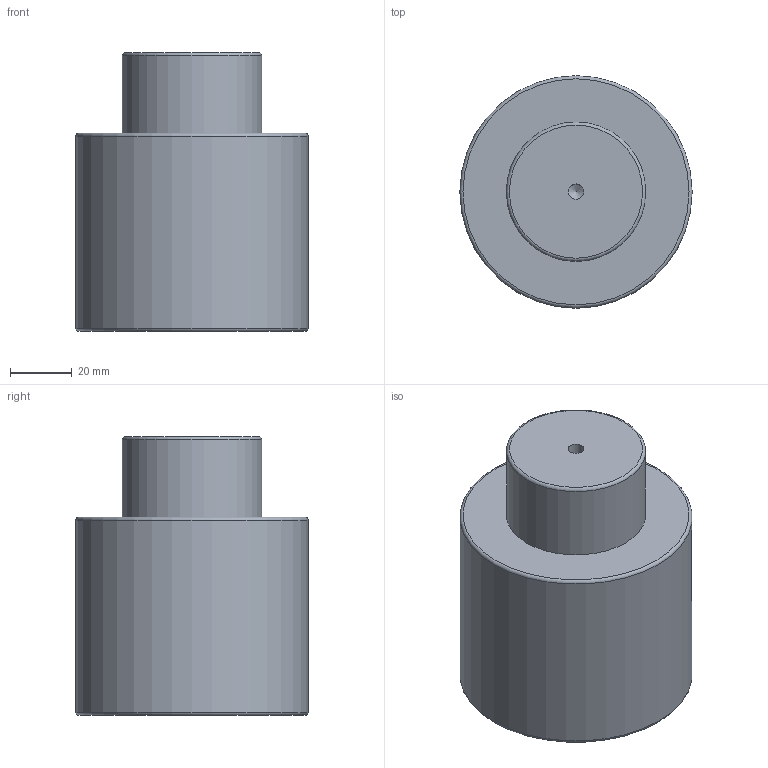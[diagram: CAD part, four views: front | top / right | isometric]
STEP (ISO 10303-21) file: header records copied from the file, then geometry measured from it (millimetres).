
FILE_DESCRIPTION(/* description */ (''),/* implementation_level */ '2;1');
FILE_NAME(/* name */ 'NV5-SMLX.75x25.stp',/* time_stamp */ '2018-08-31T16:08:29+02:00',/* author */ (''),/* organization */ (''),/* preprocessor_version */ 'ST-DEVELOPER v16',/* originating_system */ 'SIEMENS PLM Software NX 10.0',/* authorisation */ '');
FILE_SCHEMA (('AUTOMOTIVE_DESIGN { 1 0 10303 214 3 1 1 1 }'));
Length unit declared in the file: millimetre
Products named in the file (1): NV5-SMLX.75x25
Bounding box: 75 x 75 x 90 mm (x, y, z)
Volume: 321985.8 mm3; surface area: 28163.9 mm2
Topology: 1 solids, 1 shells, 12 faces, 24 edges, 15 vertices
Faces by surface type: cylinder 4, torus 3, plane 3, cone 2
Full cylindrical faces by diameter (mm): 5 x1, 10.3 x1, 45 x1, 75 x1
Entity records: 266 total; most frequent: DIRECTION 48, CARTESIAN_POINT 37, FACE_BOUND 24, AXIS2_PLACEMENT_3D 24, EDGE_LOOP 22, ORIENTED_EDGE 22, VERTEX_POINT 13, ADVANCED_FACE 12
